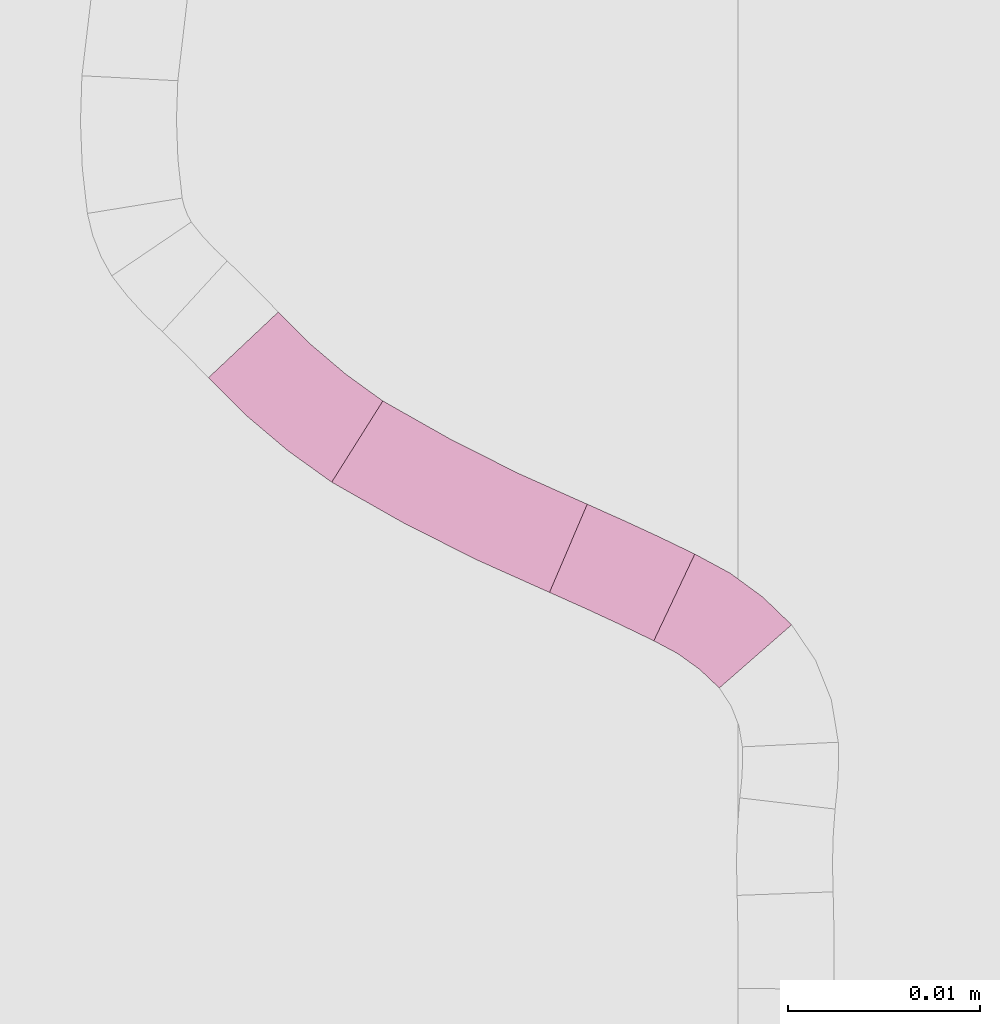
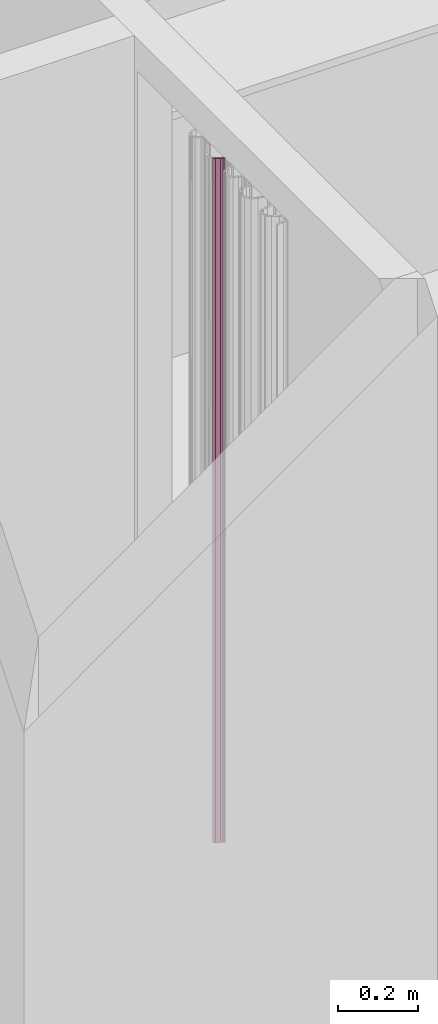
# One storey, part 321 of 418: 4 furnishings.
"""IFC2X3 building model written with IfcOpenShell, lengths in millimetres."""

from ifc_helpers import new_model, entity, si_unit, converted_unit, derived_unit, money_unit, point, direction, frame, frame_2d, origin_with_axes, place, context, subcontext, project, spatial, polyline, circle_curve, parameter, trimmed, segment, composite_curve, outline, extrude, material, type_object, element, save


model = new_model("IFC2X3")

# Units and contexts
model_context = context("Model", 3, precision=0.01, world=origin_with_axes(), true_north=direction((0.0, 1.0)))
body_context = subcontext(model_context, "Body", "Model", "MODEL_VIEW")
ifc_project = project(units=[si_unit("LENGTHUNIT", "METRE", prefix="MILLI"), si_unit("AREAUNIT", "SQUARE_METRE"), si_unit("VOLUMEUNIT", "CUBIC_METRE"), converted_unit("PLANEANGLEUNIT", "DEGREE", entity("IfcPlaneAngleMeasure", 0.0174532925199), si_unit("PLANEANGLEUNIT", "RADIAN"), dimensions=[0, 0, 0, 0, 0, 0, 0]), si_unit("SOLIDANGLEUNIT", "STERADIAN"), money_unit("EUR"), converted_unit("TIMEUNIT", "Year", entity("IfcTimeMeasure", 31556926.0), si_unit("TIMEUNIT", "SECOND"), dimensions=[0, 0, 1, 0, 0, 0, 0]), si_unit("MASSUNIT", "GRAM", prefix="KILO"), si_unit("THERMODYNAMICTEMPERATUREUNIT", "DEGREE_CELSIUS"), si_unit("LUMINOUSINTENSITYUNIT", "LUMEN"), si_unit("ENERGYUNIT", "JOULE", prefix="MEGA"), derived_unit("THERMALCONDUCTANCEUNIT", [(si_unit("POWERUNIT", "WATT"), 1), (si_unit("LENGTHUNIT", "METRE"), -1), (si_unit("THERMODYNAMICTEMPERATUREUNIT", "KELVIN"), -1)]), derived_unit("SPECIFICHEATCAPACITYUNIT", [(si_unit("ENERGYUNIT", "JOULE"), 1), (si_unit("MASSUNIT", "GRAM", prefix="KILO"), -1), (si_unit("THERMODYNAMICTEMPERATUREUNIT", "KELVIN"), -1)]), derived_unit("MASSDENSITYUNIT", [(si_unit("MASSUNIT", "GRAM", prefix="KILO"), 1), (si_unit("VOLUMEUNIT", "CUBIC_METRE"), -1)])], contexts=[model_context])

# Site, building, storey
site_placement = place(None, origin_with_axes())
site = spatial("IfcSite", under=ifc_project, at=site_placement, Name="Paldiski mnt 245/1, Tallinn, Harjumaa", CompositionType="COMPLEX")
building_placement = place(site_placement, origin_with_axes())
building = spatial("IfcBuilding", under=site, at=building_placement, Name="RKAS Hoone üldnimetus (kasutust iseloomustav) -> IFC Project Manager -> SOLIBRI", CompositionType="ELEMENT")
storey_placement = place(building_placement, origin_with_axes())
storey = spatial("IfcBuildingStorey", under=building, at=storey_placement, Name="Esimene korrus", CompositionType="ELEMENT", Elevation=0.0)

# Furnishings
ifc_material = material(Name="KON-00_GENEERILINE - KONSTRUKTSIOON")
furniture_type = type_object("IfcFurnitureType", Name="KON-00_GENEERILINE - KONSTRUKTSIOON 5", AssemblyPlace="NOTDEFINED")
furnishing_1_placement = place(storey_placement, frame((-44023.3626886, -2016.5280056, 0.0), z_axis=(0.0, 0.0, 1.0), x_axis=(-0.677651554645, 0.735383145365, 0.0)))
element("IfcFurnishingElement", 1, at=furnishing_1_placement, inside=storey, type_object=furniture_type, material=ifc_material, Name="SS-95", context=body_context, shape_type="SweptSolid", body=[
    extrude(outline(composite_curve([segment(trimmed(circle_curve(frame_2d((0.0, 10.4694090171), x_axis=(-0.00862015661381, -0.99996284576)), 15.4694090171), [point((-0.13334872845, -4.99942524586)), parameter(0.0)], [point((5.99610240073, -3.7906530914)), parameter(23.2997920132)], True, "CARTESIAN"), True, "CONTINUOUS"), segment(polyline([(5.99610240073, -3.7906530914), (4.11810876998, 0.843937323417)]), True, "CONTINUOUS"), segment(trimmed(circle_curve(frame_2d((0.0, 10.469409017), x_axis=(0.0, -1.0)), 10.469409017), [point((4.11810876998, 0.843937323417)), parameter(23.1629094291)], [point((2.02504679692e-10, 0.0)), parameter(0.0)], False, "CARTESIAN"), True, "CONTINUOUS"), segment(polyline([(2.02504679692e-10, 0.0), (-0.13334872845, -4.99942524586)]), True, "CONTINUOUS")], self_intersect=False)), origin_with_axes(), (0.0, 0.0, 1.0), 2100.0),
])
furnishing_2_placement = place(storey_placement, frame((-44026.7739487, -2014.07151326, 0.0), z_axis=(0.0, 0.0, 1.0), x_axis=(-0.89720364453, 0.441617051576, 0.0)))
element("IfcFurnishingElement", 2, at=furnishing_2_placement, inside=storey, type_object=furniture_type, material=ifc_material, Name="SS-94", context=body_context, shape_type="SweptSolid", body=[
    extrude(outline(composite_curve([segment(trimmed(circle_curve(frame_2d((0.0, 130.268930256), x_axis=(0.000597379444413, -0.999999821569)), 135.268930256), [point((0.0808068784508, -4.99997586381)), parameter(0.0)], [point((6.25314521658, -4.8553890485)), parameter(2.61535789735)], True, "CARTESIAN"), True, "CONTINUOUS"), segment(polyline([(6.25314521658, -4.8553890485), (5.98760848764, 0.137678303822)]), True, "CONTINUOUS"), segment(trimmed(circle_curve(frame_2d((0.0, 130.268930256), x_axis=(0.0, -1.0)), 130.268930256), [point((5.98760848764, 0.137678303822)), parameter(2.63443942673)], [point((1.84741111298e-10, 0.0)), parameter(0.0)], False, "CARTESIAN"), True, "CONTINUOUS"), segment(polyline([(1.84741111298e-10, 0.0), (0.0808068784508, -4.99997586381)]), True, "CONTINUOUS")], self_intersect=False)), origin_with_axes(), (0.0, 0.0, 1.0), 2100.0),
])
furnishing_3_placement = place(storey_placement, frame((-44043.5504058, -2005.80914595, 0.0), z_axis=(0.0, 0.0, 1.0), x_axis=(0.857874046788, -0.513860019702, 0.0)))
element("IfcFurnishingElement", 3, at=furnishing_3_placement, inside=storey, type_object=furniture_type, material=ifc_material, Name="SS-93", context=body_context, shape_type="SweptSolid", body=[
    extrude(outline(composite_curve([segment(trimmed(circle_curve(frame_2d((0.0, 89.4661623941), x_axis=(0.0, -1.0)), 89.4661623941), [point((2.13162820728e-10, 0.0)), parameter(0.0)], [point((12.6817496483, 0.903374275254)), parameter(8.14907285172)], True, "CARTESIAN"), True, "CONTINUOUS"), segment(polyline([(12.6817496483, 0.903374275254), (12.0067545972, 5.85772721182)]), True, "CONTINUOUS"), segment(trimmed(circle_curve(frame_2d((0.0, 89.4661623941), x_axis=(0.00131340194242, -0.999999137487)), 84.4661623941), [point((12.0067545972, 5.85772721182)), parameter(8.09694858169)], [point((0.110938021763, 5.00007285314)), parameter(0.0)], False, "CARTESIAN"), True, "CONTINUOUS"), segment(polyline([(0.110938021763, 5.00007285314), (2.13162820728e-10, 0.0)]), True, "CONTINUOUS")], self_intersect=False)), origin_with_axes(), (0.0, 0.0, 1.0), 2100.0),
])
furnishing_4_placement = place(storey_placement, frame((-44049.97293, -2000.36954737, 0.0), z_axis=(0.0, 0.0, 1.0), x_axis=(0.680436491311, -0.732807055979, 0.0)))
element("IfcFurnishingElement", 4, at=furnishing_4_placement, inside=storey, type_object=furniture_type, material=ifc_material, Name="SS-92", context=body_context, shape_type="SweptSolid", body=[
    extrude(outline(composite_curve([segment(trimmed(circle_curve(frame_2d((0.0, 35.2368603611), x_axis=(0.0, -1.0)), 35.2368603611), [point((0.0, 0.0)), parameter(0.0)], [point((8.35629609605, 1.00516972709)), parameter(13.7181820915)], True, "CARTESIAN"), True, "CONTINUOUS"), segment(polyline([(8.35629609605, 1.00516972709), (7.06777310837, 5.83763744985)]), True, "CONTINUOUS"), segment(trimmed(circle_curve(frame_2d((0.0, 35.2368603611), x_axis=(-0.00107801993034, -0.999999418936)), 30.2368603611), [point((7.06777310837, 5.83763744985)), parameter(13.5795357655)], [point((-0.0325959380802, 5.00001756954)), parameter(0.0)], False, "CARTESIAN"), True, "CONTINUOUS"), segment(polyline([(-0.0325959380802, 5.00001756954), (0.0, 0.0)]), True, "CONTINUOUS")], self_intersect=False)), origin_with_axes(), (0.0, 0.0, 1.0), 2100.0),
])

save(model, "model.ifc")
